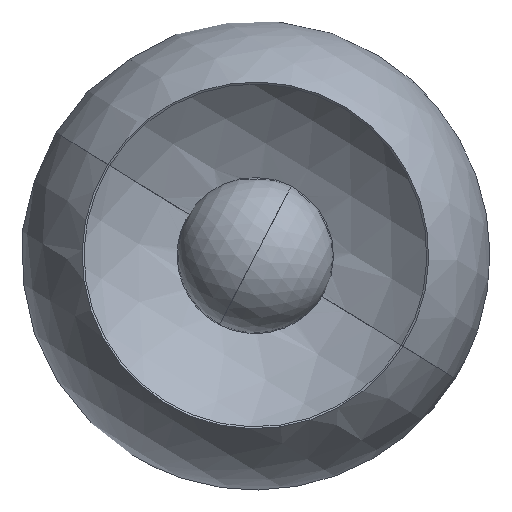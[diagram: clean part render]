
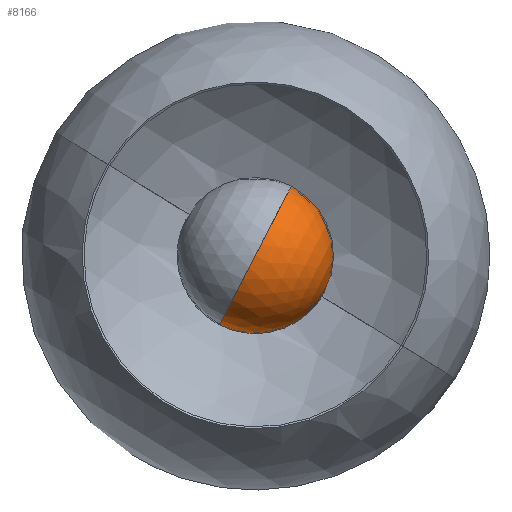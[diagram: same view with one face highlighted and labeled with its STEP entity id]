
A CAD part, front view. The second image highlights one B-rep face of the part: STEP entity #8166.
In plain terms, the highlighted spherical face has radius 30 mm.
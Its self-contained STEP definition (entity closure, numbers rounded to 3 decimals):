
#146 = DIRECTION ( 'NONE',  ( 0., 0., -1. ) ) ;
#202 = CARTESIAN_POINT ( 'NONE',  ( 22.713, 19.599, 0. ) ) ;
#468 = AXIS2_PLACEMENT_3D ( 'NONE', #5075, #8281, #1051 ) ;
#633 = ORIENTED_EDGE ( 'NONE', *, *, #3132, .T. ) ;
#805 = EDGE_CURVE ( 'NONE', #8306, #8212, #7754, .T. ) ;
#947 = CIRCLE ( 'NONE', #5492, 30. ) ;
#1051 = DIRECTION ( 'NONE',  ( -1., 0., 0. ) ) ;
#1180 = CARTESIAN_POINT ( 'NONE',  ( 0., 19.599, 0. ) ) ;
#1233 = ORIENTED_EDGE ( 'NONE', *, *, #805, .F. ) ;
#1247 = ORIENTED_EDGE ( 'NONE', *, *, #6044, .T. ) ;
#1757 = CIRCLE ( 'NONE', #8654, 22.713 ) ;
#1850 = SPHERICAL_SURFACE ( 'NONE', #468, 30. ) ;
#2048 = DIRECTION ( 'NONE',  ( 0., 0., -1. ) ) ;
#2635 = FACE_OUTER_BOUND ( 'NONE', #8000, .T. ) ;
#2700 = CARTESIAN_POINT ( 'NONE',  ( 0., 0., 0. ) ) ;
#2720 = AXIS2_PLACEMENT_3D ( 'NONE', #2700, #5913, #9143 ) ;
#3132 = EDGE_CURVE ( 'NONE', #8306, #9955, #4244, .T. ) ;
#3374 = DIRECTION ( 'NONE',  ( -1., 0., 0. ) ) ;
#3667 = CARTESIAN_POINT ( 'NONE',  ( -22.713, 19.599, 0. ) ) ;
#4244 = CIRCLE ( 'NONE', #6602, 22.713 ) ;
#4395 = DIRECTION ( 'NONE',  ( 0., -1., 0. ) ) ;
#5075 = CARTESIAN_POINT ( 'NONE',  ( 0., 0., 0. ) ) ;
#5492 = AXIS2_PLACEMENT_3D ( 'NONE', #7381, #146, #3374 ) ;
#5913 = DIRECTION ( 'NONE',  ( 0., 0., 1. ) ) ;
#6039 = CARTESIAN_POINT ( 'NONE',  ( 0., 19.599, 0. ) ) ;
#6044 = EDGE_CURVE ( 'NONE', #9214, #8212, #947, .T. ) ;
#6602 = AXIS2_PLACEMENT_3D ( 'NONE', #6039, #9275, #2048 ) ;
#7381 = CARTESIAN_POINT ( 'NONE',  ( 0., 0., 0. ) ) ;
#7479 = CARTESIAN_POINT ( 'NONE',  ( 0., -30., 0. ) ) ;
#7610 = DIRECTION ( 'NONE',  ( 0., 0., -1. ) ) ;
#7754 = CIRCLE ( 'NONE', #2720, 30. ) ;
#8000 = EDGE_LOOP ( 'NONE', ( #633, #9110, #1247, #1233 ) ) ;
#8166 = ADVANCED_FACE ( 'NONE', ( #2635 ), #1850, .T. ) ;
#8212 = VERTEX_POINT ( 'NONE', #7479 ) ;
#8281 = DIRECTION ( 'NONE',  ( 0., 0., -1. ) ) ;
#8306 = VERTEX_POINT ( 'NONE', #3667 ) ;
#8654 = AXIS2_PLACEMENT_3D ( 'NONE', #1180, #4395, #7610 ) ;
#8967 = CARTESIAN_POINT ( 'NONE',  ( 0., 19.599, -22.713 ) ) ;
#9110 = ORIENTED_EDGE ( 'NONE', *, *, #10401, .T. ) ;
#9143 = DIRECTION ( 'NONE',  ( 0., -1., 0. ) ) ;
#9214 = VERTEX_POINT ( 'NONE', #202 ) ;
#9275 = DIRECTION ( 'NONE',  ( 0., -1., 0. ) ) ;
#9955 = VERTEX_POINT ( 'NONE', #8967 ) ;
#10401 = EDGE_CURVE ( 'NONE', #9955, #9214, #1757, .T. ) ;
